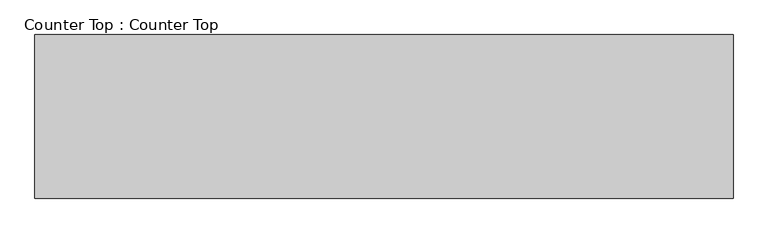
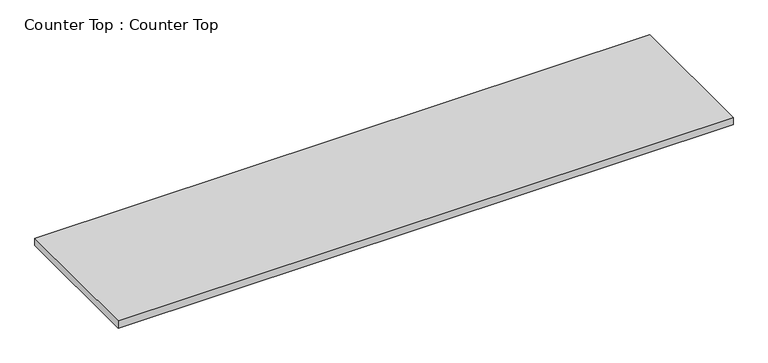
"""IFC4 building model written with IfcOpenShell, lengths in millimetres: furniture geometry, Counter Top : Counter Top."""

from ifc_helpers import new_model, si_unit, frame, origin, place, context, project, spatial, polyline, outline, extrude, source, transform, mapped, element, save


def counter_top_counter_top_fbe04672(model_context):
    return source(origin(), model_context, "Body", "SweptSolid", [
        extrude(outline(polyline([(2004.7003264, 0.0), (2004.7003264, -600.0), (-555.2996736, -600.0), (-555.2996736, 0.0), (2004.7003264, 0.0)])), frame((0.0, 0.0, 868.0), z_axis=(0.0, 0.0, 1.0), x_axis=(1.0, 0.0, 0.0)), (0.0, 0.0, 1.0), 32.0),
    ])


if __name__ == "__main__":
    model = new_model("IFC4")
    model_context = context("Model", 3, world=origin())
    ifc_project = project(units=[si_unit("LENGTHUNIT", "METRE", prefix="MILLI")], contexts=[model_context])
    site = spatial("IfcSite", under=ifc_project)
    building = spatial("IfcBuilding", under=site)
    placement = place(None, origin())
    counter_top_counter_top_shape = counter_top_counter_top_fbe04672(model_context)
    element("IfcFurniture", 1, ObjectType="Counter Top : Counter Top", at=placement, inside=building, context=model_context, shape_type="MappedRepresentation", body=[
        mapped(counter_top_counter_top_shape, transform((0.0, 0.0, 0.0), x_axis=(1.0, 0.0, 0.0), y_axis=(0.0, 1.0, 0.0), z_axis=(0.0, 0.0, 1.0))),
    ])
    save(model, "model.ifc")
